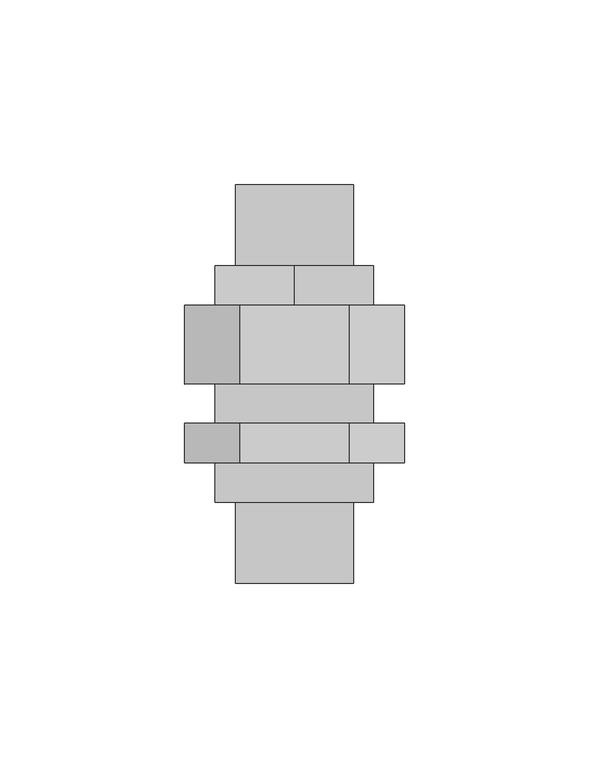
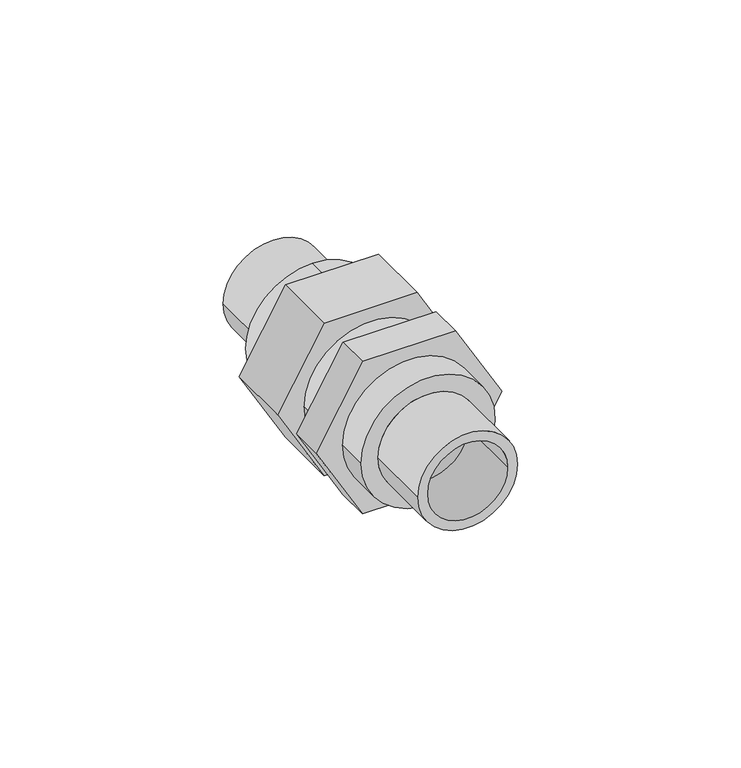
"""IFC4 building model written with IfcOpenShell, lengths in millimetres: pipe fitting geometry, EGB_VASEN_ PPR_Union plastico plastico WXR105 : Unión plástico plástico WXR105."""

import ifcopenshell
import ifcopenshell.guid

model = None  # the IFC model being written
_history = None  # IfcOwnerHistory: only IFC2X3 demands one
_inside = {}  # id of a spatial element -> (the spatial element, [elements in it])
_under = {}  # id of a project, library or spatial element -> (it, [spatial elements below it])
_declared = {}  # id of a project -> (the project, [libraries it declares])
_typed = {}  # id of a type object -> (the type object, [elements of that type])
_made_of = {}  # id of a material, layer set ... -> (it, [elements and type objects made of it])


def new_model(schema):
    """Start an empty IFC model of exactly this schema.

    Asked for "IFC4X3", IfcOpenShell would pick the latest addendum, in which some entities
    have other attributes; the version numbers below select the first issue.
    IFC2X3 requires an IfcOwnerHistory on every rooted entity: one is made here for all.
    """
    global model, _history
    if schema == "IFC4X3":
        model = ifcopenshell.file(schema_version=(4, 3, 0, 0))
    else:
        model = ifcopenshell.file(schema=schema)
    _inside.clear()
    _under.clear()
    _declared.clear()
    _typed.clear()
    _made_of.clear()
    _history = None
    if model.schema == "IFC2X3":
        org = make("IfcOrganization", Name="unknown")
        user = make(
            "IfcPersonAndOrganization",
            ThePerson=make("IfcPerson", FamilyName="unknown"),
            TheOrganization=org,
        )
        app = make(
            "IfcApplication",
            ApplicationDeveloper=org,
            Version="unknown",
            ApplicationFullName="unknown",
            ApplicationIdentifier="unknown",
        )
        _history = make(
            "IfcOwnerHistory",
            OwningUser=user,
            OwningApplication=app,
            ChangeAction="ADDED",
            CreationDate=0,
        )
    return model


def make(cls, **values):
    """One entity of the class cls with the attributes given. An attribute that is None is left unset."""
    return model.create_entity(
        cls, **{name: value for name, value in values.items() if value is not None}
    )


def rooted(cls, **values):
    """An entity with a GlobalId (a new one), such as an element, a storey or a relation."""
    return make(cls, GlobalId=ifcopenshell.guid.new(), OwnerHistory=_history, **values)


def si_unit(unit_type, name, prefix=None):
    """IfcSIUnit, for example si_unit("LENGTHUNIT", "METRE", prefix="MILLI")."""
    return make("IfcSIUnit", UnitType=unit_type, Prefix=prefix, Name=name)


def assignment(units):
    """IfcUnitAssignment: the units of a project."""
    return None if units is None else make("IfcUnitAssignment", Units=units)


def point(xyz):
    """IfcCartesianPoint."""
    return None if xyz is None else make("IfcCartesianPoint", Coordinates=xyz)


def direction(xyz):
    """IfcDirection."""
    return None if xyz is None else make("IfcDirection", DirectionRatios=xyz)


def frame(location, z_axis=None, x_axis=None):
    """IfcAxis2Placement3D, a coordinate frame: its origin and axes. An axis left out is left unset."""
    return make(
        "IfcAxis2Placement3D",
        Location=point(location),
        Axis=direction(z_axis),
        RefDirection=direction(x_axis),
    )


def frame_2d(location, x_axis=None):
    """IfcAxis2Placement2D, a coordinate frame in the plane: its origin and x axis."""
    return make(
        "IfcAxis2Placement2D", Location=point(location), RefDirection=direction(x_axis)
    )


def origin():
    """The frame at (0, 0, 0) with its axes left unset."""
    return frame((0.0, 0.0, 0.0))


def origin_2d():
    """The frame at (0, 0) in the plane with its x axis left unset."""
    return frame_2d((0.0, 0.0))


def place(relative_to, where):
    """IfcLocalPlacement: puts the frame where relative to a parent placement (None: the world)."""
    return make(
        "IfcLocalPlacement", PlacementRelTo=relative_to, RelativePlacement=where
    )


def context(
    kind, dimensions, precision=None, world=None, true_north=None, identifier=None
):
    """IfcGeometricRepresentationContext, for example the 3D "Model" context."""
    return make(
        "IfcGeometricRepresentationContext",
        ContextIdentifier=identifier,
        ContextType=kind,
        CoordinateSpaceDimension=dimensions,
        Precision=precision,
        WorldCoordinateSystem=world,
        TrueNorth=true_north,
    )


def project(units=None, contexts=None):
    """IfcProject with its units and contexts."""
    return rooted(
        "IfcProject",
        Name="project",
        RepresentationContexts=contexts,
        UnitsInContext=assignment(units),
    )


def spatial(cls, under=None, at=None, **own):
    """A site, building, storey or space (cls), placed at a placement, below another one or the project."""
    s = rooted(cls, ObjectPlacement=at, **own)
    if under is not None:
        _under.setdefault(under.id(), (under, []))[1].append(s)
    return s


def polyline(points):
    """IfcPolyline through the points."""
    return make("IfcPolyline", Points=[point(p) for p in points])


def circle_curve(where, radius):
    """IfcCircle in the frame where."""
    return make("IfcCircle", Position=where, Radius=radius)


def trimmed(basis, trim1, trim2, sense, master):
    """IfcTrimmedCurve: the piece of a basis curve between two trims."""
    return make(
        "IfcTrimmedCurve",
        BasisCurve=basis,
        Trim1=trim1,
        Trim2=trim2,
        SenseAgreement=sense,
        MasterRepresentation=master,
    )


def segment(curve, same_sense, transition):
    """IfcCompositeCurveSegment."""
    return make(
        "IfcCompositeCurveSegment",
        Transition=transition,
        SameSense=same_sense,
        ParentCurve=curve,
    )


def composite_curve(segments, self_intersect=None):
    """IfcCompositeCurve: segments joined end to end."""
    return make("IfcCompositeCurve", Segments=segments, SelfIntersect=self_intersect)


def outline(outer, holes=None, kind="AREA"):
    """IfcArbitraryClosedProfileDef: a profile drawn as a closed curve; with holes, ...WithVoids."""
    if holes is None:
        return make("IfcArbitraryClosedProfileDef", ProfileType=kind, OuterCurve=outer)
    return make(
        "IfcArbitraryProfileDefWithVoids",
        ProfileType=kind,
        OuterCurve=outer,
        InnerCurves=holes,
    )


def extrude(swept, where, along, depth):
    """IfcExtrudedAreaSolid: the profile swept, set in the frame where, extruded along a direction by depth."""
    return make(
        "IfcExtrudedAreaSolid",
        SweptArea=swept,
        Position=where,
        ExtrudedDirection=direction(along),
        Depth=depth,
    )


def shape(context_of_items, identifier, shape_type, items):
    """IfcShapeRepresentation: the items that make up one representation, for example the "Body"."""
    return make(
        "IfcShapeRepresentation",
        ContextOfItems=context_of_items,
        RepresentationIdentifier=identifier,
        RepresentationType=shape_type,
        Items=items,
    )


def source(mapping_origin, context_of_items, identifier, shape_type, items):
    """IfcRepresentationMap: a shape defined once, which mapped items show again and again."""
    return make(
        "IfcRepresentationMap",
        MappingOrigin=mapping_origin,
        MappedRepresentation=shape(context_of_items, identifier, shape_type, items),
    )


def transform(
    local_origin,
    x_axis=None,
    y_axis=None,
    z_axis=None,
    scale=None,
    scale2=None,
    scale3=None,
    uniform=True,
):
    """IfcCartesianTransformationOperator3D, or its non-uniform kind. x_axis, y_axis, z_axis: its Axis1, 2, 3."""
    if uniform:
        return make(
            "IfcCartesianTransformationOperator3D",
            Axis1=direction(x_axis),
            Axis2=direction(y_axis),
            LocalOrigin=point(local_origin),
            Scale=scale,
            Axis3=direction(z_axis),
        )
    return make(
        "IfcCartesianTransformationOperator3DnonUniform",
        Axis1=direction(x_axis),
        Axis2=direction(y_axis),
        LocalOrigin=point(local_origin),
        Scale=scale,
        Axis3=direction(z_axis),
        Scale2=scale2,
        Scale3=scale3,
    )


def mapped(mapping_source, mapping_target):
    """IfcMappedItem: shows the shape of a source again, moved by a transform."""
    return make(
        "IfcMappedItem", MappingSource=mapping_source, MappingTarget=mapping_target
    )


def made_of(thing, what):
    """Note that an element or type object is made of a material, layer set ...; save() writes the relation."""
    if what is not None:
        _made_of.setdefault(what.id(), (what, []))[1].append(thing)
    return thing


def element(
    cls,
    number,
    at=None,
    inside=None,
    cuts=None,
    type_object=None,
    material=None,
    context=None,
    identifier="Body",
    shape_type=None,
    held_by="IfcProductDefinitionShape",
    body=None,
    shapes=None,
    **own,
):
    """One element of the class cls, such as IfcWall. Its Tag is "e" and its number.

    at: its placement. inside: the storey or other place that contains it. cuts: it is an
    opening in that element (IfcRelVoidsElement). A single representation is given by context,
    identifier, shape_type and body (its items); several are given by shapes. held_by: the class
    of the entity that holds the representations. save() writes the other relations.
    """
    e = rooted(cls, Tag="e%d" % number, ObjectPlacement=at, **own)
    if body is not None:
        shapes = [shape(context, identifier, shape_type, body)]
    if shapes is not None:
        e.Representation = make(held_by, Representations=shapes)
    if inside is not None:
        _inside.setdefault(inside.id(), (inside, []))[1].append(e)
    if cuts is not None:
        rooted(
            "IfcRelVoidsElement", RelatingBuildingElement=cuts, RelatedOpeningElement=e
        )
    if type_object is not None:
        _typed.setdefault(type_object.id(), (type_object, []))[1].append(e)
    return made_of(e, material)


def aggregate(whole, parts):
    """IfcRelAggregates: a whole, such as a stair, and the parts it consists of."""
    return rooted("IfcRelAggregates", RelatingObject=whole, RelatedObjects=parts)


def save(model, path):
    """Write the relations noted so far, then the file.

    IfcRelAggregates (storeys below a building ...), IfcRelContainedInSpatialStructure (elements
    in a storey), IfcRelDefinesByType, IfcRelAssociatesMaterial and IfcRelDeclares: one each for
    every whole, place, type object, material and project.
    """
    for whole, parts in _under.values():
        aggregate(whole, parts)
    for where, things in _inside.values():
        rooted(
            "IfcRelContainedInSpatialStructure",
            RelatedElements=things,
            RelatingStructure=where,
        )
    for kind, things in _typed.values():
        rooted("IfcRelDefinesByType", RelatedObjects=things, RelatingType=kind)
    for what, things in _made_of.values():
        rooted("IfcRelAssociatesMaterial", RelatedObjects=things, RelatingMaterial=what)
    for by, libraries in _declared.values():
        rooted("IfcRelDeclares", RelatingContext=by, RelatedDefinitions=libraries)
    model.write(path)


def pipe_fitting_ec683b0b(model_context):
    return source(origin(), model_context, "Body", "SweptSolid", [
        extrude(outline(polyline([(0.0, 29.7912739), (25.8, 14.8956369), (25.8, -14.8956369), (0.0, -29.7912739), (-25.8, -14.8956369), (-25.8, 14.8956369), (0.0, 29.7912739)])), frame((0.0, -37.1895833, 0.0), z_axis=(0.0, 1.0, 0.0), x_axis=(0.0, 0.0, 1.0)), (0.0, 0.0, 1.0), 10.6666667),
        extrude(outline(polyline([(0.0, 29.7912739), (25.8, 14.8956369), (25.8, -14.8956369), (0.0, -29.7912739), (-25.8, -14.8956369), (-25.8, 14.8956369), (0.0, 29.7912739)])), frame((0.0, -15.85625, 0.0), z_axis=(0.0, 1.0, 0.0), x_axis=(0.0, 0.0, 1.0)), (0.0, 0.0, 1.0), 21.3333333),
        extrude(outline(composite_curve([segment(trimmed(circle_curve(origin_2d(), 21.5), [point((0.0, -21.5))], [point((0.0, 21.5))], False, "CARTESIAN"), True, "CONTINUOUS"), segment(trimmed(circle_curve(origin_2d(), 21.5), [point((0.0, 21.5))], [point((0.0, -21.5))], False, "CARTESIAN"), True, "CONTINUOUS")], self_intersect=False), holes=[composite_curve([segment(trimmed(circle_curve(origin_2d(), 16.0), [point((0.0, -16.0))], [point((0.0, 16.0))], True, "CARTESIAN"), True, "CONTINUOUS"), segment(trimmed(circle_curve(origin_2d(), 16.0), [point((0.0, 16.0))], [point((0.0, -16.0))], True, "CARTESIAN"), True, "CONTINUOUS")], self_intersect=False)]), frame((0.0, -47.85625, 0.0), z_axis=(0.0, 1.0, 0.0), x_axis=(0.0, 0.0, 1.0)), (0.0, 0.0, 1.0), 10.6666667),
        extrude(outline(composite_curve([segment(trimmed(circle_curve(origin_2d(), 21.5), [point((-21.5, 0.0))], [point((21.5, 0.0))], False, "CARTESIAN"), True, "CONTINUOUS"), segment(trimmed(circle_curve(origin_2d(), 21.5), [point((21.5, 0.0))], [point((-21.5, 0.0))], False, "CARTESIAN"), True, "CONTINUOUS")], self_intersect=False), holes=[composite_curve([segment(trimmed(circle_curve(origin_2d(), 16.0), [point((-16.0, 0.0))], [point((16.0, 0.0))], True, "CARTESIAN"), True, "CONTINUOUS"), segment(trimmed(circle_curve(origin_2d(), 16.0), [point((16.0, 0.0))], [point((-16.0, 0.0))], True, "CARTESIAN"), True, "CONTINUOUS")], self_intersect=False)]), frame((0.0, 5.4770833, 0.0), z_axis=(0.0, 1.0, 0.0), x_axis=(0.0, 0.0, 1.0)), (0.0, 0.0, 1.0), 10.6666667),
        extrude(outline(composite_curve([segment(trimmed(circle_curve(origin_2d(), 16.0), [point((0.0, -16.0))], [point((0.0, 16.0))], False, "CARTESIAN"), True, "CONTINUOUS"), segment(trimmed(circle_curve(origin_2d(), 16.0), [point((0.0, 16.0))], [point((0.0, -16.0))], False, "CARTESIAN"), True, "CONTINUOUS")], self_intersect=False), holes=[composite_curve([segment(trimmed(circle_curve(origin_2d(), 12.8), [point((0.0, -12.8))], [point((0.0, 12.8))], True, "CARTESIAN"), True, "CONTINUOUS"), segment(trimmed(circle_curve(origin_2d(), 12.8), [point((0.0, 12.8))], [point((0.0, -12.8))], True, "CARTESIAN"), True, "CONTINUOUS")], self_intersect=False)]), frame((0.0, -69.85625, 0.0), z_axis=(0.0, 1.0, 0.0), x_axis=(0.0, 0.0, 1.0)), (0.0, 0.0, 1.0), 22.0),
        extrude(outline(composite_curve([segment(trimmed(circle_curve(origin_2d(), 16.0), [point((0.0, -16.0))], [point((0.0, 16.0))], False, "CARTESIAN"), True, "CONTINUOUS"), segment(trimmed(circle_curve(origin_2d(), 16.0), [point((0.0, 16.0))], [point((0.0, -16.0))], False, "CARTESIAN"), True, "CONTINUOUS")], self_intersect=False), holes=[composite_curve([segment(trimmed(circle_curve(origin_2d(), 12.8), [point((0.0, -12.8))], [point((0.0, 12.8))], True, "CARTESIAN"), True, "CONTINUOUS"), segment(trimmed(circle_curve(origin_2d(), 12.8), [point((0.0, 12.8))], [point((0.0, -12.8))], True, "CARTESIAN"), True, "CONTINUOUS")], self_intersect=False)]), frame((0.0, 16.14375, 0.0), z_axis=(0.0, 1.0, 0.0), x_axis=(0.0, 0.0, 1.0)), (0.0, 0.0, 1.0), 22.0),
        extrude(outline(composite_curve([segment(trimmed(circle_curve(origin_2d(), 21.5), [point((0.0, -21.5))], [point((0.0, 21.5))], False, "CARTESIAN"), True, "CONTINUOUS"), segment(trimmed(circle_curve(origin_2d(), 21.5), [point((0.0, 21.5))], [point((0.0, -21.5))], False, "CARTESIAN"), True, "CONTINUOUS")], self_intersect=False)), frame((0.0, -26.5229167, 0.0), z_axis=(0.0, 1.0, 0.0), x_axis=(0.0, 0.0, 1.0)), (0.0, 0.0, 1.0), 10.6666667),
    ])


if __name__ == "__main__":
    model = new_model("IFC4")
    model_context = context("Model", 3, world=origin())
    ifc_project = project(units=[si_unit("LENGTHUNIT", "METRE", prefix="MILLI")], contexts=[model_context])
    site = spatial("IfcSite", under=ifc_project)
    building = spatial("IfcBuilding", under=site)
    placement = place(None, origin())
    pipe_fitting_shape = pipe_fitting_ec683b0b(model_context)
    element("IfcPipeFitting", 1, ObjectType="EGB_VASEN_ PPR_Union plastico plastico WXR105 : Unión plástico plástico WXR105", at=placement, inside=building, context=model_context, shape_type="MappedRepresentation", body=[
        mapped(pipe_fitting_shape, transform((0.0, 0.0, 0.0), x_axis=(1.0, 0.0, 0.0), y_axis=(0.0, 1.0, 0.0), z_axis=(0.0, 0.0, 1.0))),
    ])
    save(model, "model.ifc")
